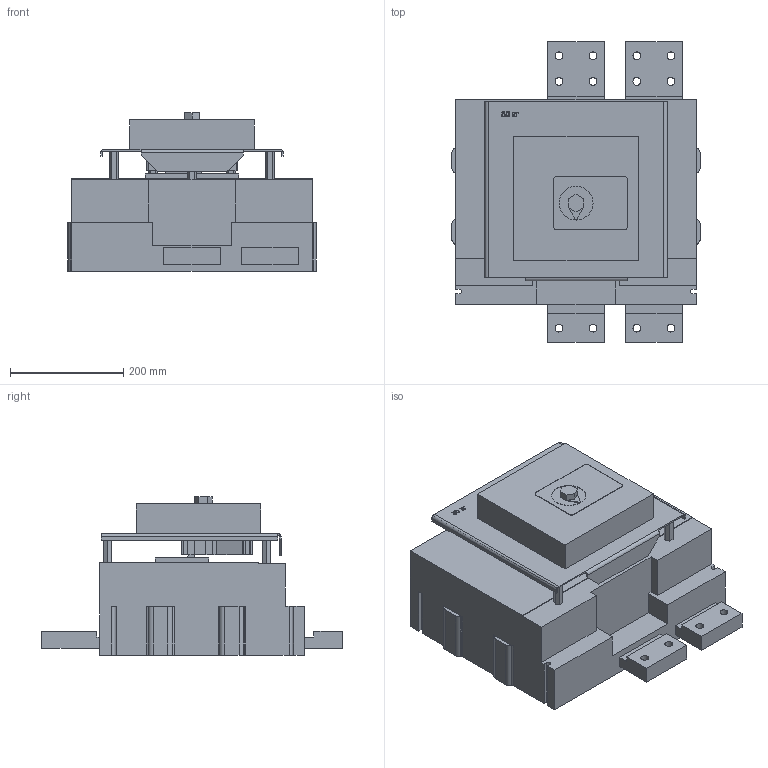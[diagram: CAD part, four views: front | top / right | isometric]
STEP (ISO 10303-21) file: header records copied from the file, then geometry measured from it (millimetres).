
FILE_DESCRIPTION (( 'STEP AP214' ), '1' );
FILE_NAME ('ÂÀ 56-43 DC ñ ýëåêòðîìàãíèòíûì ïðèâîäîì 2000À.STEP', '2023-02-13T06:07:41', ( '' ), ( '' ), 'SwSTEP 2.0', 'SolidWorks 2018', '' );
FILE_SCHEMA (( 'AUTOMOTIVE_DESIGN' ));
Length unit declared in the file: millimetre
Products named in the file (1): ÂÀ 56-43 DC ñ ýëåêòðîìàãíèòíûì ïðèâîäîì 2000À
Bounding box: 438 x 530 x 279.3 mm (x, y, z)
Volume: 28038938.3 mm3; surface area: 992789.8 mm2
Topology: 1 solids, 1 shells, 250 faces, 751 edges, 520 vertices
Faces by surface type: plane 198, cylinder 52
Full cylindrical faces by diameter (mm): 14 x12, 60 x1
Entity records: 8744 total; most frequent: CARTESIAN_POINT 1865, ORIENTED_EDGE 1452, DIRECTION 1306, EDGE_CURVE 726, VECTOR 596, LINE 596, VERTEX_POINT 508, AXIS2_PLACEMENT_3D 355
